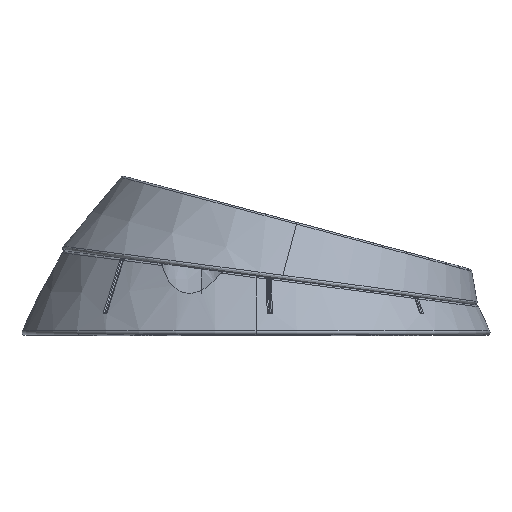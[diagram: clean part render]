
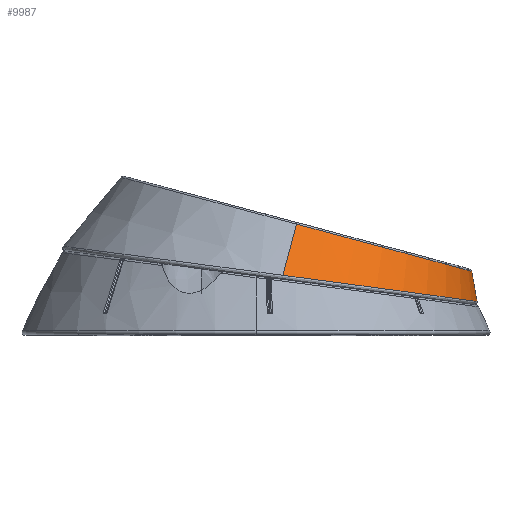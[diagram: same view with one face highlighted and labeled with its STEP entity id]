
A CAD part, top view. The second image highlights one B-rep face of the part: STEP entity #9987.
In plain terms, the highlighted conical face has half-angle 25 degrees and reference radius 40 mm.
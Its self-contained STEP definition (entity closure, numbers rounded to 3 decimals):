
#62 = CARTESIAN_POINT ( 'NONE',  ( 32.862, 6.338, 17.602 ) ) ;
#125 = CARTESIAN_POINT ( 'NONE',  ( 37.184, 5.761, 5.366 ) ) ;
#151 = VECTOR ( 'NONE', #6213, 1000. ) ;
#860 = CARTESIAN_POINT ( 'NONE',  ( 37.515, 5.717, 1.017 ) ) ;
#952 = CARTESIAN_POINT ( 'NONE',  ( 21.774, 7.819, 29.276 ) ) ;
#1018 = CARTESIAN_POINT ( 'NONE',  ( 18.005, 8.322, 31.44 ) ) ;
#1076 = CARTESIAN_POINT ( 'NONE',  ( 36.211, 5.891, 9.581 ) ) ;
#1763 = CARTESIAN_POINT ( 'NONE',  ( 6.869, 18.807, 0. ) ) ;
#1767 = EDGE_CURVE ( 'NONE', #8729, #5971, #4463, .T. ) ;
#2054 = CARTESIAN_POINT ( 'NONE',  ( 35.16, 6.032, 12.676 ) ) ;
#2117 = CARTESIAN_POINT ( 'NONE',  ( 8.83, 9.546, 34.481 ) ) ;
#2299 = EDGE_LOOP ( 'NONE', ( #4232, #2394, #5441, #12569 ) ) ;
#2371 = DIRECTION ( 'NONE',  ( 0., 0., -1. ) ) ;
#2394 = ORIENTED_EDGE ( 'NONE', *, *, #1767, .T. ) ;
#2623 = CARTESIAN_POINT ( 'NONE',  ( 1.767, -0.233, 0. ) ) ;
#2719 = CONICAL_SURFACE ( 'NONE', #5394, 40., 0.436 ) ;
#2740 = CARTESIAN_POINT ( 'NONE',  ( 37.381, 6.478, 1.017 ) ) ;
#2822 = CARTESIAN_POINT ( 'NONE',  ( 24.42, 7.466, 27.413 ) ) ;
#3016 = CARTESIAN_POINT ( 'NONE',  ( 9.893, 9.404, 34.267 ) ) ;
#3085 = CARTESIAN_POINT ( 'NONE',  ( 4.54, 10.118, 35.003 ) ) ;
#3135 = CARTESIAN_POINT ( 'NONE',  ( 36.611, 10.838, 1.016 ) ) ;
#3409 = FACE_OUTER_BOUND ( 'NONE', #2299, .T. ) ;
#3751 = EDGE_CURVE ( 'NONE', #7394, #8729, #4702, .T. ) ;
#3839 = CARTESIAN_POINT ( 'NONE',  ( 37.112, 8., 1.017 ) ) ;
#3856 = CARTESIAN_POINT ( 'NONE',  ( 13.037, 8.985, 33.494 ) ) ;
#3918 = CARTESIAN_POINT ( 'NONE',  ( 28.322, 6.945, 23.678 ) ) ;
#3981 = CARTESIAN_POINT ( 'NONE',  ( 33.89, 6.201, 15.699 ) ) ;
#4046 = CARTESIAN_POINT ( 'NONE',  ( 37.451, 5.726, 3.212 ) ) ;
#4232 = ORIENTED_EDGE ( 'NONE', *, *, #3751, .T. ) ;
#4463 = LINE ( 'NONE', #5492, #151 ) ;
#4702 = CIRCLE ( 'NONE', #11470, 30.808 ) ;
#4760 = CARTESIAN_POINT ( 'NONE',  ( 4.54, 10.118, 35.003 ) ) ;
#4951 = CARTESIAN_POINT ( 'NONE',  ( 29.401, 6.801, 22.444 ) ) ;
#5015 = CARTESIAN_POINT ( 'NONE',  ( 36.491, 5.854, 8.535 ) ) ;
#5148 = CARTESIAN_POINT ( 'NONE',  ( 37.515, 5.717, 1.017 ) ) ;
#5394 = AXIS2_PLACEMENT_3D ( 'NONE', #2623, #6369, #2371 ) ;
#5417 = CARTESIAN_POINT ( 'NONE',  ( 6.869, 18.807, 30.808 ) ) ;
#5439 = DIRECTION ( 'NONE',  ( 0., 0., 1. ) ) ;
#5441 = ORIENTED_EDGE ( 'NONE', *, *, #6959, .T. ) ;
#5469 = VERTEX_POINT ( 'NONE', #860 ) ;
#5492 = CARTESIAN_POINT ( 'NONE',  ( 1.767, -0.233, 40. ) ) ;
#5706 = CARTESIAN_POINT ( 'NONE',  ( 36.611, 10.838, 1.016 ) ) ;
#5793 = CARTESIAN_POINT ( 'NONE',  ( 18.97, 8.193, 30.944 ) ) ;
#5971 = VERTEX_POINT ( 'NONE', #4760 ) ;
#5977 = CARTESIAN_POINT ( 'NONE',  ( 35.54, 5.981, 11.651 ) ) ;
#6213 = DIRECTION ( 'NONE',  ( -0.235, -0.875, 0.423 ) ) ;
#6369 = DIRECTION ( 'NONE',  ( -0.259, -0.966, 0. ) ) ;
#6400 = EDGE_CURVE ( 'NONE', #5469, #7394, #7009, .T. ) ;
#6670 = CARTESIAN_POINT ( 'NONE',  ( 37.246, 7.239, 1.017 ) ) ;
#6935 = CARTESIAN_POINT ( 'NONE',  ( 34.957, 6.059, 13.187 ) ) ;
#6959 = EDGE_CURVE ( 'NONE', #5971, #5469, #12521, .T. ) ;
#7004 = CARTESIAN_POINT ( 'NONE',  ( 8.293, 9.617, 34.577 ) ) ;
#7009 = B_SPLINE_CURVE_WITH_KNOTS ( 'NONE', 3,
 ( #12582, #2740, #6670, #3839, #10588, #8778, #5706 ),
 .UNSPECIFIED., .F., .F.,
 ( 4, 3, 4 ),
 ( 0.001, 0.003, 0.006 ),
 .UNSPECIFIED. ) ;
#7394 = VERTEX_POINT ( 'NONE', #3135 ) ;
#7705 = CARTESIAN_POINT ( 'NONE',  ( 5.613, 9.975, 34.938 ) ) ;
#7764 = CARTESIAN_POINT ( 'NONE',  ( 26.059, 7.247, 26.016 ) ) ;
#7827 = CARTESIAN_POINT ( 'NONE',  ( 29.047, 6.848, 22.862 ) ) ;
#8729 = VERTEX_POINT ( 'NONE', #5417 ) ;
#8778 = CARTESIAN_POINT ( 'NONE',  ( 36.778, 9.892, 1.016 ) ) ;
#8796 = CARTESIAN_POINT ( 'NONE',  ( 6.685, 9.832, 34.824 ) ) ;
#8863 = CARTESIAN_POINT ( 'NONE',  ( 30.427, 6.664, 21.174 ) ) ;
#8992 = CARTESIAN_POINT ( 'NONE',  ( 10.421, 9.334, 34.148 ) ) ;
#9895 = CARTESIAN_POINT ( 'NONE',  ( 35.717, 5.957, 11.135 ) ) ;
#9987 = ADVANCED_FACE ( 'NONE', ( #3409 ), #2719, .T. ) ;
#10588 = CARTESIAN_POINT ( 'NONE',  ( 36.945, 8.946, 1.016 ) ) ;
#10856 = CARTESIAN_POINT ( 'NONE',  ( 31.068, 6.578, 20.301 ) ) ;
#10924 = CARTESIAN_POINT ( 'NONE',  ( 15.064, 8.714, 32.784 ) ) ;
#11470 = AXIS2_PLACEMENT_3D ( 'NONE', #1763, #12442, #5439 ) ;
#11639 = CARTESIAN_POINT ( 'NONE',  ( 20.861, 7.941, 29.859 ) ) ;
#12442 = DIRECTION ( 'NONE',  ( -0.259, -0.966, 0. ) ) ;
#12521 = B_SPLINE_CURVE_WITH_KNOTS ( 'NONE', 3,
 ( #3085, #7705, #8796, #7004, #2117, #3016, #8992, #3856, #10924, #1018, #5793, #11639, #952, #2822, #7764, #12725, #3918, #7827, #4951, #8863, #10856, #62, #3981, #6935, #2054, #5977, #9895, #1076, #5015, #125, #4046, #5148 ),
 .UNSPECIFIED., .F., .F.,
 ( 4, 2, 2, 2, 2, 2, 2, 2, 2, 2, 2, 2, 2, 2, 2, 4 ),
 ( 0.169, 0.172, 0.174, 0.175, 0.182, 0.185, 0.189, 0.195, 0.197, 0.198, 0.202, 0.208, 0.21, 0.212, 0.215, 0.222 ),
 .UNSPECIFIED. ) ;
#12569 = ORIENTED_EDGE ( 'NONE', *, *, #6400, .T. ) ;
#12582 = CARTESIAN_POINT ( 'NONE',  ( 37.515, 5.717, 1.017 ) ) ;
#12725 = CARTESIAN_POINT ( 'NONE',  ( 27.951, 6.994, 24.076 ) ) ;
